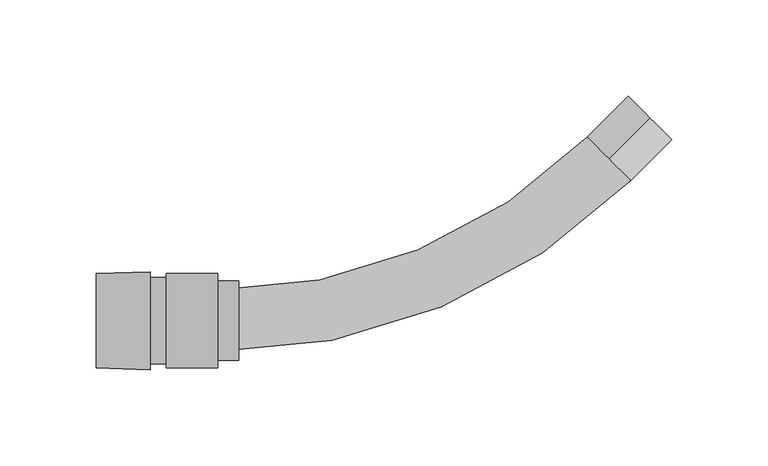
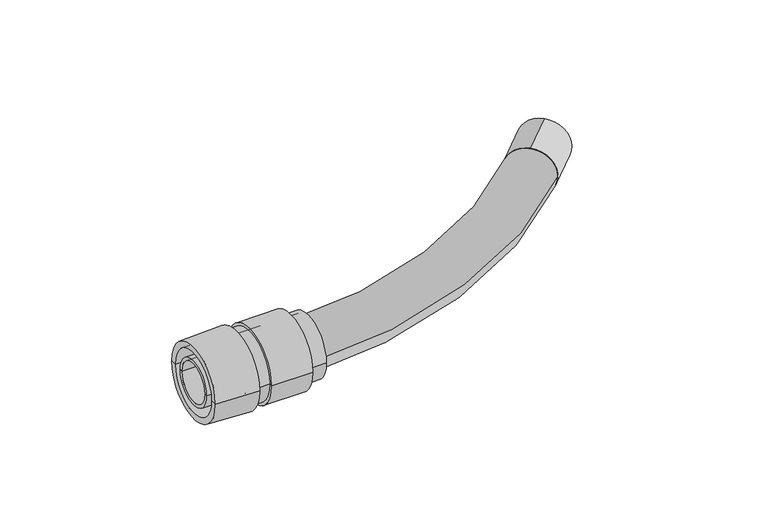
"""IFC4 building model written with IfcOpenShell, lengths in millimetres: cable carrier fitting geometry, КНС_МуфтаГибкаяТрубаКоробка_IP65_DKC : Коробка."""

from ifc_helpers import new_model, si_unit, point, frame, frame_2d, origin, place, context, project, spatial, polyline, circle_curve, ellipse_curve, trimmed, segment, composite_curve, outline, extrude, source, transform, mapped, element, save
from ifc_brep_helpers import plane_surface, cylinder_surface, revolved_surface, advanced_brep


def cable_carrier_fitting_5adaba82(model_context):
    return source(origin(), model_context, "Body", "SolidModel", [
        advanced_brep(
        [(-108.1908378, -18.5353846, 0.0), (-108.1908378, 18.5353846, 0.0), (-154.1908378, 18.5353846, 0.0), (-154.1908378, -18.5353846, 0.0), (-108.1908378, -20.6, 0.0), (-108.1908378, 20.6, 0.0), (-119.1908378, -20.6, 0.0), (-119.1908378, 20.6, 0.0), (-119.1908378, -24.5, 0.0), (-119.1908378, 24.5, 0.0), (-145.6908378, -24.5, 0.0), (-145.6908378, 24.5, 0.0), (-145.6908378, -22.55, 0.0), (-145.6908378, 22.55, 0.0), (-154.1908378, -22.55, 0.0), (-154.1908378, 22.55, 0.0)],
        [
            (0, 1, circle_curve(frame((-108.1908378, 0.0, 0.0), z_axis=(1.0, 0.0, 0.0), x_axis=(0.0, 1.0, 0.0)), 18.5353846)),
            (1, 2),
            (2, 3, circle_curve(frame((-154.1908378, 0.0, 0.0), z_axis=(-1.0, 0.0, 0.0), x_axis=(0.0, 1.0, 0.0)), 18.5353846)),
            (3, 0),
            (1, 0, circle_curve(frame((-108.1908378, 0.0, 0.0), z_axis=(1.0, 0.0, 0.0), x_axis=(0.0, 1.0, 0.0)), 18.5353846)),
            (3, 2, circle_curve(frame((-154.1908378, 0.0, 0.0), z_axis=(-1.0, 0.0, 0.0), x_axis=(0.0, 1.0, 0.0)), 18.5353846)),
            (4, 5, circle_curve(frame((-108.1908378, 0.0, 0.0), z_axis=(1.0, 0.0, 0.0), x_axis=(0.0, 1.0, 0.0)), 20.6)),
            (5, 1),
            (0, 4),
            (5, 4, circle_curve(frame((-108.1908378, 0.0, 0.0), z_axis=(1.0, 0.0, 0.0), x_axis=(0.0, 1.0, 0.0)), 20.6)),
            (6, 7, circle_curve(frame((-119.1908378, 0.0, 0.0), z_axis=(1.0, 0.0, 0.0), x_axis=(0.0, 1.0, 0.0)), 20.6)),
            (7, 5),
            (4, 6),
            (7, 6, circle_curve(frame((-119.1908378, 0.0, 0.0), z_axis=(1.0, 0.0, 0.0), x_axis=(0.0, 1.0, 0.0)), 20.6)),
            (8, 9, circle_curve(frame((-119.1908378, 0.0, 0.0), z_axis=(1.0, 0.0, 0.0), x_axis=(0.0, 1.0, 0.0)), 24.5)),
            (9, 7),
            (6, 8),
            (9, 8, circle_curve(frame((-119.1908378, 0.0, 0.0), z_axis=(1.0, 0.0, 0.0), x_axis=(0.0, 1.0, 0.0)), 24.5)),
            (10, 11, circle_curve(frame((-145.6908378, 0.0, 0.0), z_axis=(1.0, 0.0, 0.0), x_axis=(0.0, 1.0, 0.0)), 24.5)),
            (11, 9),
            (8, 10),
            (11, 10, circle_curve(frame((-145.6908378, 0.0, 0.0), z_axis=(1.0, 0.0, 0.0), x_axis=(0.0, 1.0, 0.0)), 24.5)),
            (12, 13, circle_curve(frame((-145.6908378, 0.0, 0.0), z_axis=(1.0, 0.0, 0.0), x_axis=(0.0, 1.0, 0.0)), 22.55)),
            (13, 11),
            (10, 12),
            (13, 12, circle_curve(frame((-145.6908378, 0.0, 0.0), z_axis=(1.0, 0.0, 0.0), x_axis=(0.0, 1.0, 0.0)), 22.55)),
            (14, 15, circle_curve(frame((-154.1908378, 0.0, 0.0), z_axis=(1.0, 0.0, 0.0), x_axis=(0.0, 1.0, 0.0)), 22.55)),
            (15, 13),
            (12, 14),
            (15, 14, circle_curve(frame((-154.1908378, 0.0, 0.0), z_axis=(1.0, 0.0, 0.0), x_axis=(0.0, 1.0, 0.0)), 22.55)),
            (2, 15),
            (14, 3),
        ],
        [
            revolved_surface(polyline([(-154.19083780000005, 18.5353846, 0.0), (-108.19083780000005, 18.5353846, 0.0)]), (1380.3091622, 0.0, 0.0), (-1.0, 0.0, 0.0)),
            plane_surface(frame((-108.1908378, 0.0, 0.0), z_axis=(1.0, 0.0, 0.0), x_axis=(0.0, 1.0, 0.0))),
            cylinder_surface(frame((1380.3091622, 0.0, 0.0), z_axis=(-1.0, 0.0, 0.0), x_axis=(0.0, 1.0, 0.0)), 20.6),
            plane_surface(frame((-119.1908378, 0.0, 0.0), z_axis=(1.0, 0.0, 0.0), x_axis=(0.0, 1.0, 0.0))),
            cylinder_surface(frame((1380.3091622, 0.0, 0.0), z_axis=(-1.0, 0.0, 0.0), x_axis=(0.0, 1.0, 0.0)), 24.5),
            plane_surface(frame((-145.6908378, 0.0, 0.0), z_axis=(-1.0, 0.0, 0.0), x_axis=(0.0, 1.0, 0.0))),
            cylinder_surface(frame((1380.3091622, 0.0, 0.0), z_axis=(-1.0, 0.0, 0.0), x_axis=(0.0, 1.0, 0.0)), 22.55),
            plane_surface(frame((-154.1908378, 0.0, 0.0), z_axis=(-1.0, 0.0, 0.0), x_axis=(0.0, 1.0, 0.0))),
        ],
        [
            (0, [[1, 2, 3, 4]]),
            (0, [[5, -4, 6, -2]]),
            (1, [[7, 8, -1, 9]]),
            (1, [[10, -9, -5, -8]]),
            (2, [[11, 12, -7, 13]]),
            (2, [[14, -13, -10, -12]]),
            (3, [[15, 16, -11, 17]]),
            (3, [[18, -17, -14, -16]]),
            (4, [[19, 20, -15, 21]]),
            (4, [[22, -21, -18, -20]]),
            (5, [[23, 24, -19, 25]]),
            (5, [[26, -25, -22, -24]]),
            (6, [[27, 28, -23, 29]]),
            (6, [[30, -29, -26, -28]]),
            (7, [[-3, 31, -27, 32]]),
            (7, [[-6, -32, -30, -31]]),
        ],
    ),
        advanced_brep(
        [(-154.1908378, -25.5, 0.0), (-154.1908378, 25.5, 0.0), (-154.1908378, 20.6, 0.0), (-154.1908378, -20.6, 0.0), (-182.1908378, -24.5, 0.0), (-182.1908378, 24.5, 0.0), (-182.1908378, -20.6, 0.0), (-182.1908378, 20.6, 0.0)],
        [
            (0, 1, circle_curve(frame((-154.1908378, 0.0, 0.0), z_axis=(1.0, 0.0, 0.0), x_axis=(0.0, 1.0, 0.0)), 25.5)),
            (1, 2),
            (2, 3, circle_curve(frame((-154.1908378, 0.0, 0.0), z_axis=(-1.0, 0.0, 0.0), x_axis=(0.0, 1.0, 0.0)), 20.6)),
            (3, 0),
            (1, 0, circle_curve(frame((-154.1908378, 0.0, 0.0), z_axis=(1.0, 0.0, 0.0), x_axis=(0.0, 1.0, 0.0)), 25.5)),
            (3, 2, circle_curve(frame((-154.1908378, 0.0, 0.0), z_axis=(-1.0, 0.0, 0.0), x_axis=(0.0, 1.0, 0.0)), 20.6)),
            (4, 5, circle_curve(frame((-182.1908378, 0.0, 0.0), z_axis=(1.0, 0.0, 0.0), x_axis=(0.0, 1.0, 0.0)), 24.5)),
            (5, 1),
            (0, 4),
            (5, 4, circle_curve(frame((-182.1908378, 0.0, 0.0), z_axis=(1.0, 0.0, 0.0), x_axis=(0.0, 1.0, 0.0)), 24.5)),
            (6, 7, circle_curve(frame((-182.1908378, 0.0, 0.0), z_axis=(1.0, 0.0, 0.0), x_axis=(0.0, 1.0, 0.0)), 20.6)),
            (7, 5),
            (4, 6),
            (7, 6, circle_curve(frame((-182.1908378, 0.0, 0.0), z_axis=(1.0, 0.0, 0.0), x_axis=(0.0, 1.0, 0.0)), 20.6)),
            (2, 7),
            (6, 3),
        ],
        [
            plane_surface(frame((-154.1908378, 0.0, 0.0), z_axis=(1.0, 0.0, 0.0), x_axis=(0.0, 1.0, 0.0))),
            revolved_surface(polyline([(-154.1908378, 25.5, 0.0), (-182.1908378, 24.5, 0.0)]), (1380.3091622, 0.0, 0.0), (-1.0, 0.0, 0.0)),
            plane_surface(frame((-182.1908378, 0.0, 0.0), z_axis=(-1.0, 0.0, 0.0), x_axis=(0.0, 1.0, 0.0))),
            revolved_surface(polyline([(-182.19083780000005, 20.6, 0.0), (-154.19083780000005, 20.6, 0.0)]), (1380.3091622, 0.0, 0.0), (-1.0, 0.0, 0.0)),
        ],
        [
            (0, [[1, 2, 3, 4]]),
            (0, [[5, -4, 6, -2]]),
            (1, [[7, 8, -1, 9]]),
            (1, [[10, -9, -5, -8]]),
            (2, [[11, 12, -7, 13]]),
            (2, [[14, -13, -10, -12]]),
            (3, [[-3, 15, -11, 16]]),
            (3, [[-6, -16, -14, -15]]),
        ],
    ),
        advanced_brep(
        [(-182.1908378, -15.0, 0.0), (-182.1908378, 15.0, 0.0), (-154.1908378, 15.0, 0.0), (-154.1908378, -15.0, 0.0), (-182.1908378, -13.0, 0.0), (-182.1908378, 13.0, 0.0), (-154.1908378, -13.0, 0.0), (-154.1908378, 13.0, 0.0)],
        [
            (0, 1, circle_curve(frame((-182.1908378, 0.0, 0.0), z_axis=(1.0, 0.0, 0.0), x_axis=(0.0, 1.0, 0.0)), 15.0)),
            (1, 2),
            (2, 3, circle_curve(frame((-154.1908378, 0.0, 0.0), z_axis=(-1.0, 0.0, 0.0), x_axis=(0.0, 1.0, 0.0)), 15.0)),
            (3, 0),
            (1, 0, circle_curve(frame((-182.1908378, 0.0, 0.0), z_axis=(1.0, 0.0, 0.0), x_axis=(0.0, 1.0, 0.0)), 15.0)),
            (3, 2, circle_curve(frame((-154.1908378, 0.0, 0.0), z_axis=(-1.0, 0.0, 0.0), x_axis=(0.0, 1.0, 0.0)), 15.0)),
            (4, 5, circle_curve(frame((-182.1908378, 0.0, 0.0), z_axis=(1.0, 0.0, 0.0), x_axis=(0.0, 1.0, 0.0)), 13.0)),
            (5, 1),
            (0, 4),
            (5, 4, circle_curve(frame((-182.1908378, 0.0, 0.0), z_axis=(1.0, 0.0, 0.0), x_axis=(0.0, 1.0, 0.0)), 13.0)),
            (6, 7, circle_curve(frame((-154.1908378, 0.0, 0.0), z_axis=(1.0, 0.0, 0.0), x_axis=(0.0, 1.0, 0.0)), 13.0)),
            (7, 5),
            (4, 6),
            (7, 6, circle_curve(frame((-154.1908378, 0.0, 0.0), z_axis=(1.0, 0.0, 0.0), x_axis=(0.0, 1.0, 0.0)), 13.0)),
            (2, 7),
            (6, 3),
        ],
        [
            cylinder_surface(frame((1380.3091622, 0.0, 0.0), z_axis=(-1.0, 0.0, 0.0), x_axis=(0.0, 1.0, 0.0)), 15.0),
            plane_surface(frame((-182.1908378, 0.0, 0.0), z_axis=(-1.0, 0.0, 0.0), x_axis=(0.0, 1.0, 0.0))),
            revolved_surface(polyline([(-182.19083780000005, 13.0, 0.0), (-154.19083780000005, 13.0, 0.0)]), (1380.3091622, 0.0, 0.0), (-1.0, 0.0, 0.0)),
            plane_surface(frame((-154.1908378, 0.0, 0.0), z_axis=(1.0, 0.0, 0.0), x_axis=(0.0, 1.0, 0.0))),
        ],
        [
            (0, [[1, 2, 3, 4]]),
            (0, [[5, -4, 6, -2]]),
            (1, [[7, 8, -1, 9]]),
            (1, [[10, -9, -5, -8]]),
            (2, [[11, 12, -7, 13]]),
            (2, [[14, -13, -10, -12]]),
            (3, [[-3, 15, -11, 16]]),
            (3, [[-6, -16, -14, -15]]),
        ],
    ),
        extrude(outline(composite_curve([segment(trimmed(circle_curve(frame_2d((0.0, -16.0)), 16.0), [point((0.0, -32.0))], [point((0.0, 0.0))], False, "CARTESIAN"), True, "CONTINUOUS"), segment(trimmed(circle_curve(frame_2d((0.0, -16.0)), 16.0), [point((0.0, 0.0))], [point((0.0, -32.0))], False, "CARTESIAN"), True, "CONTINUOUS")], self_intersect=False), holes=[composite_curve([segment(trimmed(circle_curve(frame_2d((0.0, -16.0)), 15.0), [point((0.0, -31.0))], [point((0.0, -1.0))], True, "CARTESIAN"), True, "CONTINUOUS"), segment(trimmed(circle_curve(frame_2d((0.0, -16.0)), 15.0), [point((0.0, -1.0))], [point((0.0, -31.0))], True, "CARTESIAN"), True, "CONTINUOUS")], self_intersect=False)]), frame((84.2806497, 84.2806497, 16.0), z_axis=(0.7071067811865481, 0.7071067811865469, 0.0), x_axis=(-0.7071067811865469, 0.7071067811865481, 0.0)), (0.0, 0.0, 1.0), 30.0),
        advanced_brep(
        [(72.9669412, 95.5943582, 0.0), (95.5943582, 72.9669412, 0.0), (-119.1908378, 16.0, 0.0), (-119.1908378, -16.0, 0.0)],
        [
            (0, 1, circle_curve(frame((84.2806497, 84.2806497, 0.0), z_axis=(0.7071067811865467, 0.7071067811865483, 0.0), x_axis=(0.7071067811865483, -0.7071067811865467, 0.0)), 16.0)),
            (1, 0, circle_curve(frame((84.2806497, 84.2806497, 0.0), z_axis=(0.7071067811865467, 0.7071067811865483, 0.0), x_axis=(0.7071067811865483, -0.7071067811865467, 0.0)), 16.0)),
            (2, 3, circle_curve(frame((-119.1908378, 0.0, 0.0), z_axis=(-1.0, 0.0, 0.0), x_axis=(0.0, -1.0, 0.0)), 16.0)),
            (3, 2, circle_curve(frame((-119.1908378, 0.0, 0.0), z_axis=(-1.0, 0.0, 0.0), x_axis=(0.0, -1.0, 0.0)), 16.0)),
            (3, 1, circle_curve(frame((-119.1908378, 287.7521371, 0.0), z_axis=(0.0, 0.0, 1.0), x_axis=(0.7071067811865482, -0.7071067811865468, 0.0)), 303.7521371)),
            (0, 2, circle_curve(frame((-119.1908378, 287.7521371, 0.0), z_axis=(0.0, 0.0, -1.0), x_axis=(0.7071067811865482, -0.7071067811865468, 0.0)), 271.7521371)),
        ],
        [
            plane_surface(frame((84.2806497, 84.2806497, 0.0), z_axis=(0.7071067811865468, 0.7071067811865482, 0.0), x_axis=(0.0, 0.0, 1.0))),
            plane_surface(frame((-119.1908378, 0.0, 0.0), z_axis=(-1.0, 0.0, 0.0), x_axis=(0.0, 0.0, 1.0))),
            revolved_surface(trimmed(ellipse_curve(frame((84.2806497, 84.2806497, 0.0), z_axis=(0.7071067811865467, 0.7071067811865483, 0.0), x_axis=(0.7071067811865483, -0.7071067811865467, 0.0)), 16.0, 16.0), [point((72.9669412, 95.5943582, 0.0))], [point((95.5943582, 72.9669412, 0.0))], True, "CARTESIAN"), (-119.1908378, 287.7521371, 0.0), (0.0, 0.0, -1.0)),
            revolved_surface(trimmed(ellipse_curve(frame((84.2806497, 84.2806497, 0.0), z_axis=(0.7071067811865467, 0.7071067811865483, 0.0), x_axis=(0.7071067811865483, -0.7071067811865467, 0.0)), 16.0, 16.0), [point((95.5943582, 72.9669412, 0.0))], [point((72.9669412, 95.5943582, 0.0))], True, "CARTESIAN"), (-119.1908378, 287.7521371, 0.0), (0.0, 0.0, -1.0)),
        ],
        [
            (0, [[1, 2]]),
            (1, [[3, 4]]),
            (2, [[5, -1, 6, -4]]),
            (3, [[-6, -2, -5, -3]]),
        ],
    ),
    ])


if __name__ == "__main__":
    model = new_model("IFC4")
    model_context = context("Model", 3, world=origin())
    ifc_project = project(units=[si_unit("LENGTHUNIT", "METRE", prefix="MILLI")], contexts=[model_context])
    site = spatial("IfcSite", under=ifc_project)
    building = spatial("IfcBuilding", under=site)
    placement = place(None, origin())
    cable_carrier_fitting_shape = cable_carrier_fitting_5adaba82(model_context)
    element("IfcCableCarrierFitting", 1, ObjectType="КНС_МуфтаГибкаяТрубаКоробка_IP65_DKC : Коробка", at=placement, inside=building, context=model_context, shape_type="MappedRepresentation", body=[
        mapped(cable_carrier_fitting_shape, transform((0.0, 0.0, 0.0), x_axis=(1.0, 0.0, 0.0), y_axis=(0.0, 1.0, 0.0), z_axis=(0.0, 0.0, 1.0))),
    ])
    save(model, "model.ifc")
